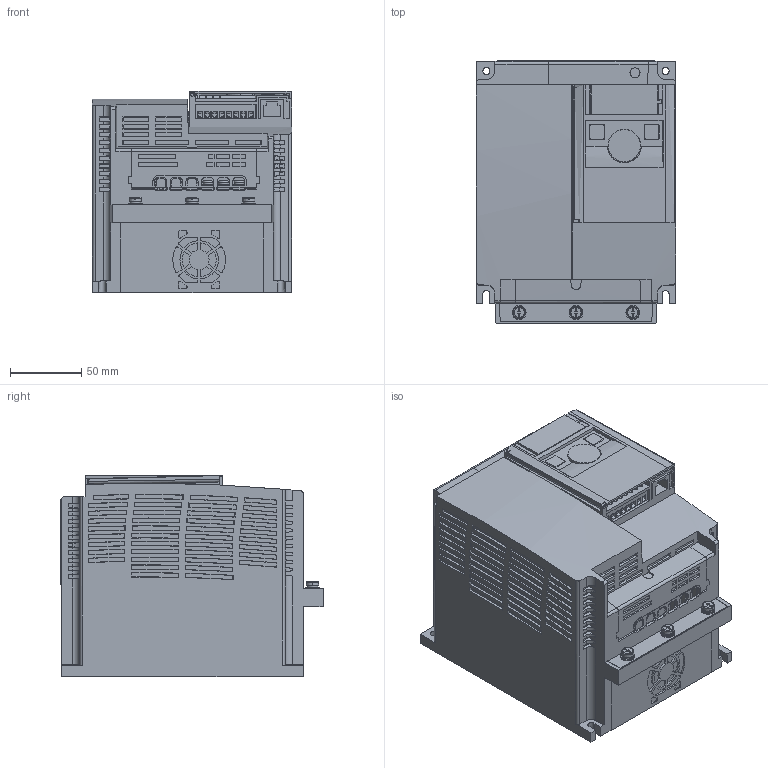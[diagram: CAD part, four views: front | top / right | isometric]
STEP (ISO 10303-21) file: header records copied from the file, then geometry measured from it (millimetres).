
FILE_DESCRIPTION((''),'2;1');
FILE_NAME('NC3_S3F_E_ASM','2026-04-08T16:25:29',('SESA728268'),('Schneider-Electric'),'CREO PARAMETRIC BY PTC INC, 2025093','CREO PARAMETRIC BY PTC INC, 2025093','');
FILE_SCHEMA(('AP242_MANAGED_MODEL_BASED_3D_ENGINEERING_MIM_LF { 1 0 10303 442 1 1 4 }'));
Length unit declared in the file: millimetre
Products named in the file (19): DRIVE_S3F; CONTROL_TERM_COVER; SCREW_M5_S3F-54774; SCREW_M5_S3F-55608; SCREW_M5_S3F-56442; TERM_COVER_S3F_1; TERM_COVER_S3F_2; TERM_SCREW_S3F-67118; TERM_SCREW_S3F-67953; TERM_SCREW_S3F-68788; TERM_SCREW_S3F-69623; TERM_SCREW_S3F-70458; TERM_SCREW_S3F-71293; SHUNT-BAR_S3F; TERM_SCREW_S3F-76208; TERM_SCREW_S3F-77043; TERM_SCREW_S3F-77878; TERM_SCREW_S3F-78713; NC3_S3F_E_ASM
Assembly tree (18 placements, depth 2):
  NC3_S3F_E_ASM
    DRIVE_S3F
    CONTROL_TERM_COVER
    SCREW_M5_S3F-54774
    SCREW_M5_S3F-55608
    SCREW_M5_S3F-56442
    TERM_COVER_S3F_1
    TERM_COVER_S3F_2
    TERM_SCREW_S3F-67118
    TERM_SCREW_S3F-67953
    TERM_SCREW_S3F-68788
    TERM_SCREW_S3F-69623
    TERM_SCREW_S3F-70458
    TERM_SCREW_S3F-71293
    SHUNT-BAR_S3F
    TERM_SCREW_S3F-76208
    TERM_SCREW_S3F-77043
    TERM_SCREW_S3F-77878
    TERM_SCREW_S3F-78713
Bounding box: 140 x 184.5 x 141.4 mm (x, y, z)
Volume: 2955301.2 mm3; surface area: 206233.6 mm2
Topology: 18 solids, 18 shells, 2224 faces, 6197 edges, 4213 vertices
Faces by surface type: plane 1608, cylinder 324, cone 226, torus 29, sphere 20, bspline 15, extrusion 2
Entity records: 89933 total; most frequent: CARTESIAN_POINT 16689, ORIENTED_EDGE 12354, DIRECTION 10825, EDGE_CURVE 6177, VERTEX_POINT 4213, VECTOR 4203, LINE 4201, AXIS2_PLACEMENT_3D 3311
